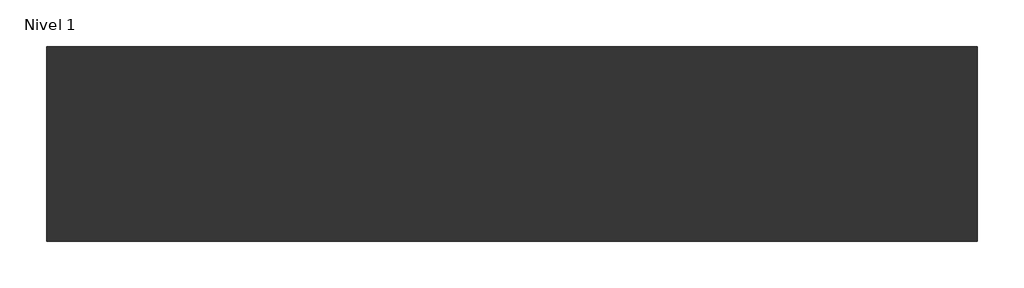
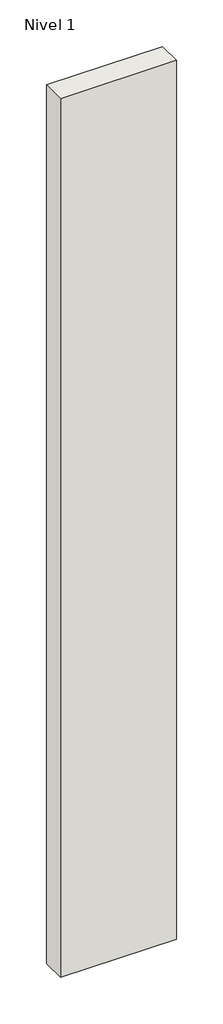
# One storey: 1 wall.
"""IFC4 building model written with IfcOpenShell, lengths in millimetres."""

from ifc_helpers import new_model, si_unit, origin, origin_with_axes, place, context, project, spatial, polyline, outline, extrude, element, save

model = new_model("IFC4")

# Units and contexts
model_context = context("Model", 3, world=origin())
ifc_project = project(units=[si_unit("LENGTHUNIT", "METRE", prefix="MILLI")], contexts=[model_context])

# Site, building, storey
site = spatial("IfcSite", under=ifc_project)
building = spatial("IfcBuilding", under=site)
storey = spatial("IfcBuildingStorey", under=building, Name="Nivel 1", Elevation=0.0)

# Wall
placement = place(None, origin())
element("IfcWall", 1, ObjectType="Tabique ladrillo de doble hoja - Sistema D01-(55,8 dBA)", at=placement, inside=storey, context=model_context, shape_type="SweptSolid", body=[
    extrude(outline(polyline([(-3436.220018, -2918.6024758), (-4436.220018, -2918.6024758), (-4436.220018, -2709.6024758), (-3436.220018, -2709.6024758), (-3436.220018, -2918.6024758)])), origin_with_axes(), (0.0, 0.0, 1.0), 8000.0),
])

save(model, "model.ifc")
